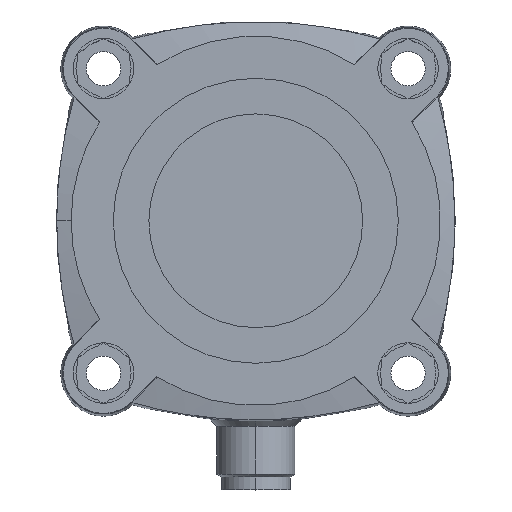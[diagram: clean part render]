
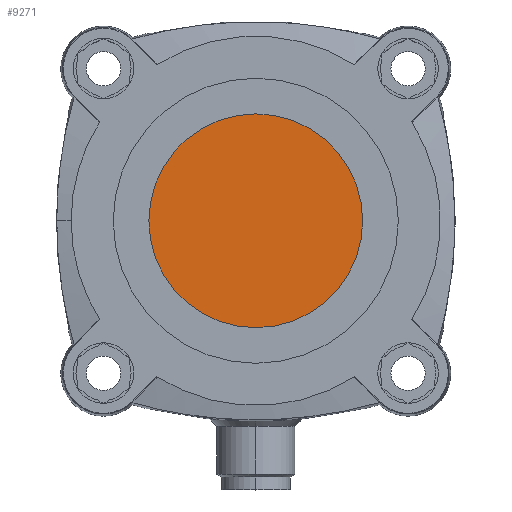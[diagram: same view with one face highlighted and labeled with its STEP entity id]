
A CAD part, top view. The second image highlights one B-rep face of the part: STEP entity #9271.
In plain terms, the highlighted planar face has unit normal (0, 0, 1).
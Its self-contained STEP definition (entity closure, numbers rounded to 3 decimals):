
#261 = DIRECTION ( 'NONE',  ( 1., 0., 0. ) ) ;
#7494 = CARTESIAN_POINT ( 'NONE',  ( 16.5, 0., 32.9 ) ) ;
#7680 = CARTESIAN_POINT ( 'NONE',  ( 0., 0., 32.9 ) ) ;
#7763 = AXIS2_PLACEMENT_3D ( 'NONE', #25131, #19454, #25006 ) ;
#8138 = EDGE_LOOP ( 'NONE', ( #12903, #15718 ) ) ;
#9271 = ADVANCED_FACE ( 'NONE', ( #9682 ), #17802, .T. ) ;
#9682 = FACE_OUTER_BOUND ( 'NONE', #8138, .T. ) ;
#10212 = VERTEX_POINT ( 'NONE', #21247 ) ;
#10376 = CARTESIAN_POINT ( 'NONE',  ( 0., 0., 32.9 ) ) ;
#10505 = DIRECTION ( 'NONE',  ( 0., 0., 1. ) ) ;
#12903 = ORIENTED_EDGE ( 'NONE', *, *, #13738, .T. ) ;
#13738 = EDGE_CURVE ( 'NONE', #15066, #10212, #20922, .T. ) ;
#13794 = DIRECTION ( 'NONE',  ( 1., 0., 0. ) ) ;
#15035 = CIRCLE ( 'NONE', #19288, 16.5 ) ;
#15066 = VERTEX_POINT ( 'NONE', #7494 ) ;
#15468 = EDGE_CURVE ( 'NONE', #10212, #15066, #15035, .T. ) ;
#15718 = ORIENTED_EDGE ( 'NONE', *, *, #15468, .T. ) ;
#17802 = PLANE ( 'NONE',  #21469 ) ;
#19288 = AXIS2_PLACEMENT_3D ( 'NONE', #10376, #10505, #261 ) ;
#19454 = DIRECTION ( 'NONE',  ( 0., 0., 1. ) ) ;
#20922 = CIRCLE ( 'NONE', #7763, 16.5 ) ;
#21247 = CARTESIAN_POINT ( 'NONE',  ( -16.5, 0., 32.9 ) ) ;
#21469 = AXIS2_PLACEMENT_3D ( 'NONE', #7680, #23889, #13794 ) ;
#23889 = DIRECTION ( 'NONE',  ( 0., 0., 1. ) ) ;
#25006 = DIRECTION ( 'NONE',  ( 1., 0., 0. ) ) ;
#25131 = CARTESIAN_POINT ( 'NONE',  ( 0., 0., 32.9 ) ) ;
